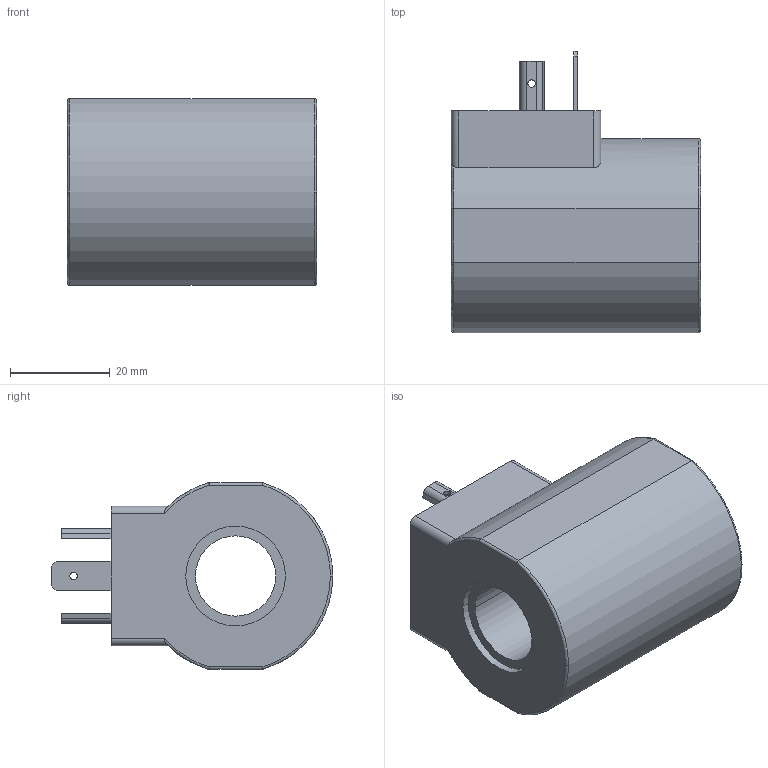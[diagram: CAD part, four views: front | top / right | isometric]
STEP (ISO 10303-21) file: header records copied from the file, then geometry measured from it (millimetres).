
FILE_DESCRIPTION (( 'STEP AP214' ), '1' );
FILE_NAME ('KD35_16.STEP', '2017-03-31T05:49:27', ( '' ), ( '' ), 'SwSTEP 2.0', 'SolidWorks 2016', '' );
FILE_SCHEMA (( 'AUTOMOTIVE_DESIGN' ));
Length unit declared in the file: millimetre
Products named in the file (1): KD35_16
Bounding box: 50 x 56.5 x 37.5 mm (x, y, z)
Volume: 54940.7 mm3; surface area: 12034.6 mm2
Topology: 1 solids, 1 shells, 76 faces, 197 edges, 127 vertices
Faces by surface type: plane 35, cylinder 32, bspline 7, cone 2
Entity records: 3539 total; most frequent: CARTESIAN_POINT 821, ORIENTED_EDGE 390, DIRECTION 372, EDGE_CURVE 195, AXIS2_PLACEMENT_3D 128, VERTEX_POINT 127, VECTOR 116, LINE 116
